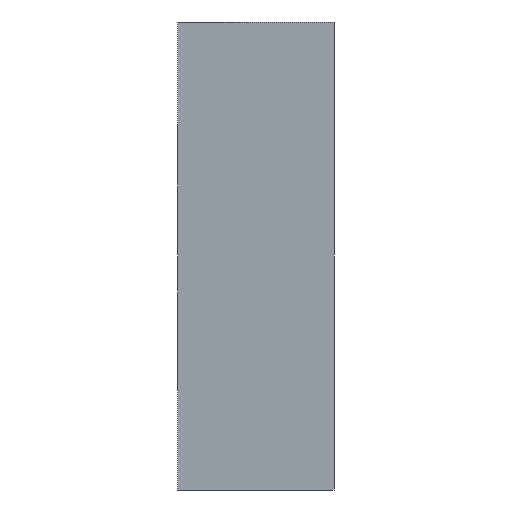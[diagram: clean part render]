
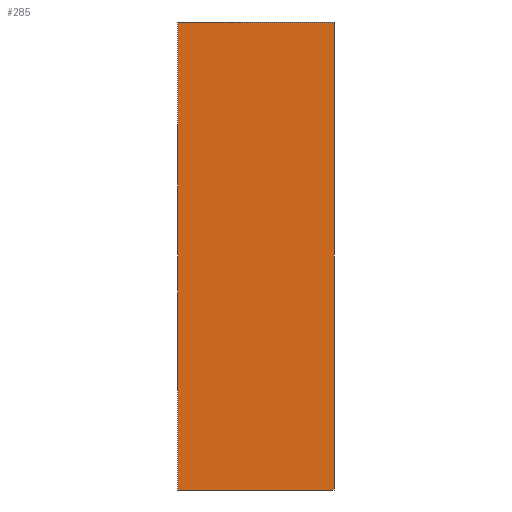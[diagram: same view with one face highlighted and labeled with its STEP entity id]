
A CAD part, left-side view. The second image highlights one B-rep face of the part: STEP entity #285.
In plain terms, the highlighted planar face has unit normal (-1, 0, 0).
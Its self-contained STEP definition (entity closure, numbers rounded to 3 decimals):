
#2 = DIRECTION ( 'NONE',  ( 1., 0., 0. ) ) ;
#14 = ORIENTED_EDGE ( 'NONE', *, *, #94, .F. ) ;
#17 = CARTESIAN_POINT ( 'NONE',  ( 0., 0., 0. ) ) ;
#18 = DIRECTION ( 'NONE',  ( 0., 0., 1. ) ) ;
#21 = CARTESIAN_POINT ( 'NONE',  ( 0., 2., 0. ) ) ;
#57 = DIRECTION ( 'NONE',  ( 0., 0., -1. ) ) ;
#75 = CARTESIAN_POINT ( 'NONE',  ( 0., 2., 0. ) ) ;
#83 = VERTEX_POINT ( 'NONE', #119 ) ;
#84 = ORIENTED_EDGE ( 'NONE', *, *, #223, .F. ) ;
#94 = EDGE_CURVE ( 'NONE', #243, #235, #95, .T. ) ;
#95 = LINE ( 'NONE', #198, #131 ) ;
#101 = LINE ( 'NONE', #75, #228 ) ;
#105 = VECTOR ( 'NONE', #305, 1000. ) ;
#119 = CARTESIAN_POINT ( 'NONE',  ( 0., 0., 6. ) ) ;
#123 = EDGE_CURVE ( 'NONE', #243, #291, #101, .T. ) ;
#131 = VECTOR ( 'NONE', #201, 1000. ) ;
#138 = ORIENTED_EDGE ( 'NONE', *, *, #227, .T. ) ;
#157 = DIRECTION ( 'NONE',  ( 0., -1., 0. ) ) ;
#163 = CARTESIAN_POINT ( 'NONE',  ( 0., 2., 6. ) ) ;
#186 = FACE_OUTER_BOUND ( 'NONE', #244, .T. ) ;
#198 = CARTESIAN_POINT ( 'NONE',  ( 0., 2., 0. ) ) ;
#201 = DIRECTION ( 'NONE',  ( 0., 0., 1. ) ) ;
#203 = LINE ( 'NONE', #163, #105 ) ;
#221 = CARTESIAN_POINT ( 'NONE',  ( 0., 2., 6. ) ) ;
#223 = EDGE_CURVE ( 'NONE', #235, #83, #203, .T. ) ;
#227 = EDGE_CURVE ( 'NONE', #291, #83, #303, .T. ) ;
#228 = VECTOR ( 'NONE', #157, 1000. ) ;
#232 = PLANE ( 'NONE',  #277 ) ;
#235 = VERTEX_POINT ( 'NONE', #221 ) ;
#241 = CARTESIAN_POINT ( 'NONE',  ( 0., 2., 0. ) ) ;
#243 = VERTEX_POINT ( 'NONE', #21 ) ;
#244 = EDGE_LOOP ( 'NONE', ( #138, #84, #14, #263 ) ) ;
#262 = VECTOR ( 'NONE', #18, 1000. ) ;
#263 = ORIENTED_EDGE ( 'NONE', *, *, #123, .T. ) ;
#277 = AXIS2_PLACEMENT_3D ( 'NONE', #241, #2, #57 ) ;
#282 = CARTESIAN_POINT ( 'NONE',  ( 0., 0., 0. ) ) ;
#285 = ADVANCED_FACE ( 'NONE', ( #186 ), #232, .F. ) ;
#291 = VERTEX_POINT ( 'NONE', #282 ) ;
#303 = LINE ( 'NONE', #17, #262 ) ;
#305 = DIRECTION ( 'NONE',  ( 0., -1., 0. ) ) ;
